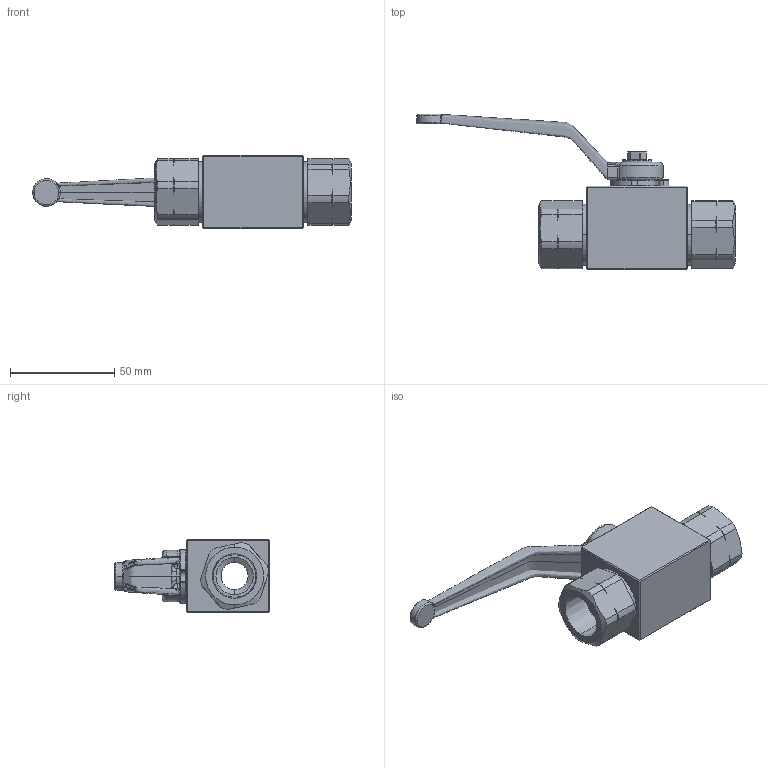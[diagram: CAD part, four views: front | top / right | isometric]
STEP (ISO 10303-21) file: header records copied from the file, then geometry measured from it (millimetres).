
FILE_DESCRIPTION (( 'STEP AP203' ), '1' );
FILE_NAME ('CFM-4-W-HANDLE.STEP', '2019-11-21T18:50:25', ( '' ), ( '' ), 'SwSTEP 2.0', 'SolidWorks 2017', '' );
FILE_SCHEMA (( 'CONFIG_CONTROL_DESIGN' ));
Length unit declared in the file: inch
Products named in the file (26): cfm-4-stem; cfm-4-seats; cfm_9mm_stem-stop-plate; fkm-stem-oring-4; fkm-fitting-oring-4; cfm-9mm-handle; cfm-4-ball; cfm-4-body; m5-flange-cfm; cfm-4-endport; cfm-4-stem-thrust-washer; CFM-4-W-HANDLE
Assembly tree (14 placements, depth 2):
  cfm-4-stem
  cfm_9mm_stem-stop-plate
  fkm-stem-oring-4
  cfm-9mm-handle
  cfm-4-ball
Bounding box: 152.68 x 74.4 x 35.23 mm (x, y, z)
Volume: 91971.4 mm3; surface area: 43091.1 mm2
Topology: 14 solids, 14 shells, 763 faces, 1942 edges, 1196 vertices
Faces by surface type: cylinder 280, plane 214, torus 110, cone 78, bspline 63, sphere 18
Entity records: 38005 total; most frequent: CARTESIAN_POINT 20071, ORIENTED_EDGE 3402, DIRECTION 3124, EDGE_CURVE 1701, AXIS2_PLACEMENT_3D 1236, VERTEX_POINT 1057, EDGE_LOOP 712, ADVANCED_FACE 679
